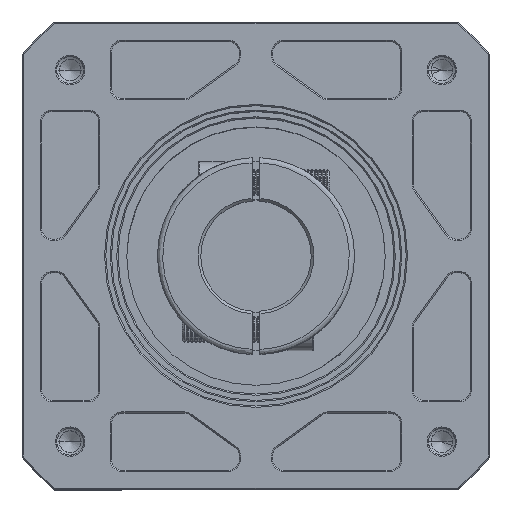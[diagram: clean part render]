
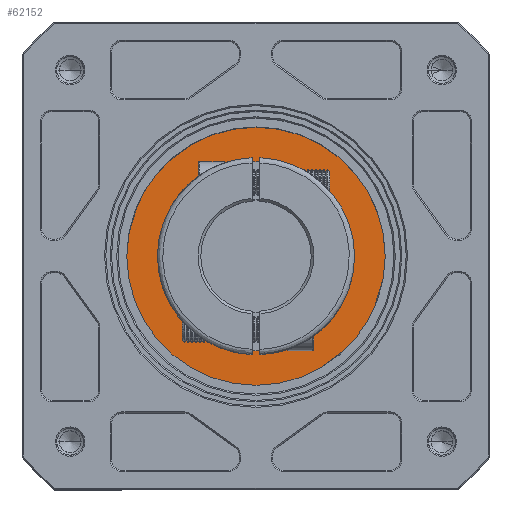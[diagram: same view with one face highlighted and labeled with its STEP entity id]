
A CAD part, top view. The second image highlights one B-rep face of the part: STEP entity #62152.
In plain terms, the highlighted planar face has unit normal (0, 0, 1).
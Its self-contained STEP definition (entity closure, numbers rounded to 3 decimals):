
#540 = CARTESIAN_POINT ( 'NONE',  ( -304.433, -48.713, -91.628 ) ) ;
#3083 = DIRECTION ( 'NONE',  ( -1., 0., 0. ) ) ;
#3551 = CARTESIAN_POINT ( 'NONE',  ( -262.693, 21.287, -91.628 ) ) ;
#4977 = CARTESIAN_POINT ( 'NONE',  ( -262.693, 21.287, -91.628 ) ) ;
#7307 = ORIENTED_EDGE ( 'NONE', *, *, #137500, .T. ) ;
#11564 = VERTEX_POINT ( 'NONE', #33763 ) ;
#11647 = LINE ( 'NONE', #20052, #27137 ) ;
#11950 = LINE ( 'NONE', #51854, #46339 ) ;
#12688 = EDGE_CURVE ( 'NONE', #78395, #12810, #11950, .T. ) ;
#12810 = VERTEX_POINT ( 'NONE', #110648 ) ;
#18984 = FACE_OUTER_BOUND ( 'NONE', #41943, .T. ) ;
#20052 = CARTESIAN_POINT ( 'NONE',  ( -332.693, 21.287, -91.628 ) ) ;
#21041 = VERTEX_POINT ( 'NONE', #48938 ) ;
#22211 = VERTEX_POINT ( 'NONE', #87449 ) ;
#22534 = CIRCLE ( 'NONE', #50704, 81.5 ) ;
#25913 = CARTESIAN_POINT ( 'NONE',  ( -262.693, 21.287, -91.628 ) ) ;
#26245 = CARTESIAN_POINT ( 'NONE',  ( -192.693, -20.453, -91.628 ) ) ;
#27137 = VECTOR ( 'NONE', #52302, 1000. ) ;
#27652 = EDGE_CURVE ( 'NONE', #40277, #83996, #96435, .T. ) ;
#27971 = VECTOR ( 'NONE', #93784, 1000. ) ;
#29140 = DIRECTION ( 'NONE',  ( 0., 0., 1. ) ) ;
#33763 = CARTESIAN_POINT ( 'NONE',  ( -220.952, 91.287, -91.628 ) ) ;
#35605 = DIRECTION ( 'NONE',  ( 0., 0., 1. ) ) ;
#40277 = VERTEX_POINT ( 'NONE', #540 ) ;
#40595 = EDGE_CURVE ( 'NONE', #21041, #44024, #11647, .T. ) ;
#41943 = EDGE_LOOP ( 'NONE', ( #83173, #49226, #109574, #119604, #61362, #89561, #132534, #7307 ) ) ;
#42127 = DIRECTION ( 'NONE',  ( 1., 0., 0. ) ) ;
#43465 = AXIS2_PLACEMENT_3D ( 'NONE', #25913, #35605, #91907 ) ;
#44024 = VERTEX_POINT ( 'NONE', #124167 ) ;
#46339 = VECTOR ( 'NONE', #64360, 1000. ) ;
#47857 = DIRECTION ( 'NONE',  ( 1., 0., 0. ) ) ;
#48938 = CARTESIAN_POINT ( 'NONE',  ( -332.693, 63.027, -91.628 ) ) ;
#49226 = ORIENTED_EDGE ( 'NONE', *, *, #86313, .T. ) ;
#50189 = EDGE_CURVE ( 'NONE', #11564, #22211, #84814, .T. ) ;
#50572 = EDGE_CURVE ( 'NONE', #83996, #78395, #22534, .T. ) ;
#50704 = AXIS2_PLACEMENT_3D ( 'NONE', #3551, #68039, #3083 ) ;
#51854 = CARTESIAN_POINT ( 'NONE',  ( -192.693, 21.287, -91.628 ) ) ;
#52302 = DIRECTION ( 'NONE',  ( 0., -1., 0. ) ) ;
#52598 = CARTESIAN_POINT ( 'NONE',  ( -262.693, 21.287, -91.628 ) ) ;
#59302 = CIRCLE ( 'NONE', #43465, 81.5 ) ;
#61362 = ORIENTED_EDGE ( 'NONE', *, *, #27652, .T. ) ;
#62152 = ADVANCED_FACE ( 'NONE', ( #18984 ), #114338, .T. ) ;
#64360 = DIRECTION ( 'NONE',  ( 0., 1., 0. ) ) ;
#68039 = DIRECTION ( 'NONE',  ( 0., 0., 1. ) ) ;
#72521 = CARTESIAN_POINT ( 'NONE',  ( -262.693, 91.287, -91.628 ) ) ;
#78395 = VERTEX_POINT ( 'NONE', #26245 ) ;
#82007 = DIRECTION ( 'NONE',  ( 0., 0., 1. ) ) ;
#83173 = ORIENTED_EDGE ( 'NONE', *, *, #50189, .T. ) ;
#83996 = VERTEX_POINT ( 'NONE', #97688 ) ;
#84814 = LINE ( 'NONE', #72521, #27971 ) ;
#86313 = EDGE_CURVE ( 'NONE', #22211, #21041, #111476, .T. ) ;
#87449 = CARTESIAN_POINT ( 'NONE',  ( -304.433, 91.287, -91.628 ) ) ;
#89561 = ORIENTED_EDGE ( 'NONE', *, *, #50572, .T. ) ;
#91907 = DIRECTION ( 'NONE',  ( -1., 0., 0. ) ) ;
#93784 = DIRECTION ( 'NONE',  ( -1., 0., 0. ) ) ;
#96435 = LINE ( 'NONE', #108167, #127332 ) ;
#96557 = DIRECTION ( 'NONE',  ( -1., 0., 0. ) ) ;
#97688 = CARTESIAN_POINT ( 'NONE',  ( -220.952, -48.713, -91.628 ) ) ;
#103780 = DIRECTION ( 'NONE',  ( -1., 0., 0. ) ) ;
#108167 = CARTESIAN_POINT ( 'NONE',  ( -262.693, -48.713, -91.628 ) ) ;
#109574 = ORIENTED_EDGE ( 'NONE', *, *, #40595, .T. ) ;
#110648 = CARTESIAN_POINT ( 'NONE',  ( -192.693, 63.027, -91.628 ) ) ;
#110772 = AXIS2_PLACEMENT_3D ( 'NONE', #4977, #82007, #103780 ) ;
#111476 = CIRCLE ( 'NONE', #114674, 81.5 ) ;
#113322 = EDGE_CURVE ( 'NONE', #44024, #40277, #59302, .T. ) ;
#113869 = CARTESIAN_POINT ( 'NONE',  ( -262.693, 21.287, -91.628 ) ) ;
#114338 = PLANE ( 'NONE',  #142867 ) ;
#114674 = AXIS2_PLACEMENT_3D ( 'NONE', #52598, #29140, #96557 ) ;
#119604 = ORIENTED_EDGE ( 'NONE', *, *, #113322, .T. ) ;
#124167 = CARTESIAN_POINT ( 'NONE',  ( -332.693, -20.453, -91.628 ) ) ;
#125417 = DIRECTION ( 'NONE',  ( 0., 0., 1. ) ) ;
#127332 = VECTOR ( 'NONE', #42127, 1000. ) ;
#129223 = CIRCLE ( 'NONE', #110772, 81.5 ) ;
#132534 = ORIENTED_EDGE ( 'NONE', *, *, #12688, .T. ) ;
#137500 = EDGE_CURVE ( 'NONE', #12810, #11564, #129223, .T. ) ;
#142867 = AXIS2_PLACEMENT_3D ( 'NONE', #113869, #125417, #47857 ) ;
